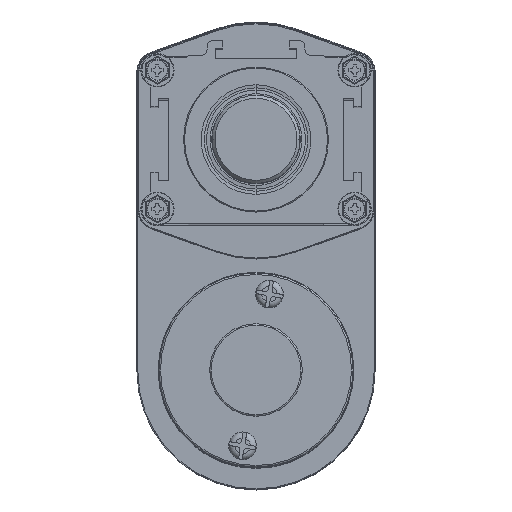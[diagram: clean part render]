
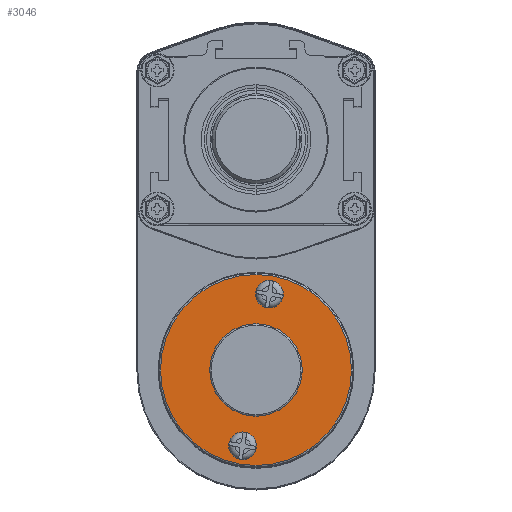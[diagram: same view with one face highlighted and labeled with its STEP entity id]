
A CAD part, top view. The second image highlights one B-rep face of the part: STEP entity #3046.
In plain terms, the highlighted planar face has unit normal (0, 0, 1).
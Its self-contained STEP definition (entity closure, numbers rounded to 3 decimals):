
#648 = DIRECTION ( 'NONE',  ( 0., 0., 1. ) ) ;
#1446 = DIRECTION ( 'NONE',  ( 0., 0., 1. ) ) ;
#2352 = DIRECTION ( 'NONE',  ( 0., 0., 1. ) ) ;
#2400 = CARTESIAN_POINT ( 'NONE',  ( -12.365, -15.675, 284.9 ) ) ;
#3046 = ADVANCED_FACE ( 'NONE', ( #61122, #26044, #66898, #6544 ), #59808, .T. ) ;
#3143 = AXIS2_PLACEMENT_3D ( 'NONE', #36321, #68764, #68330 ) ;
#3448 = CIRCLE ( 'NONE', #64364, 4.5 ) ;
#5583 = ORIENTED_EDGE ( 'NONE', *, *, #69376, .F. ) ;
#6544 = FACE_BOUND ( 'NONE', #49284, .T. ) ;
#8499 = EDGE_CURVE ( 'NONE', #26691, #58603, #3448, .T. ) ;
#8509 = CARTESIAN_POINT ( 'NONE',  ( -22.09, -70.824, 284.9 ) ) ;
#10365 = ORIENTED_EDGE ( 'NONE', *, *, #24735, .F. ) ;
#10815 = DIRECTION ( 'NONE',  ( 0., 0., 1. ) ) ;
#12738 = ORIENTED_EDGE ( 'NONE', *, *, #29710, .F. ) ;
#13062 = CARTESIAN_POINT ( 'NONE',  ( -22.09, -70.824, 284.9 ) ) ;
#14241 = AXIS2_PLACEMENT_3D ( 'NONE', #78716, #10815, #43656 ) ;
#15813 = CARTESIAN_POINT ( 'NONE',  ( -22.871, -75.256, 284.9 ) ) ;
#16369 = ORIENTED_EDGE ( 'NONE', *, *, #64996, .F. ) ;
#22456 = ORIENTED_EDGE ( 'NONE', *, *, #84826, .T. ) ;
#23587 = AXIS2_PLACEMENT_3D ( 'NONE', #27352, #40677, #60681 ) ;
#24172 = CIRCLE ( 'NONE', #14241, 4.5 ) ;
#24730 = ORIENTED_EDGE ( 'NONE', *, *, #76518, .F. ) ;
#24735 = EDGE_CURVE ( 'NONE', #33634, #29066, #53463, .T. ) ;
#25776 = CARTESIAN_POINT ( 'NONE',  ( -20.353, -60.976, 284.9 ) ) ;
#26044 = FACE_BOUND ( 'NONE', #37322, .T. ) ;
#26691 = VERTEX_POINT ( 'NONE', #45014 ) ;
#27352 = CARTESIAN_POINT ( 'NONE',  ( -2.976, -48.809, 284.9 ) ) ;
#27844 = DIRECTION ( 'NONE',  ( -0.174, -0.985, 0. ) ) ;
#27889 = CIRCLE ( 'NONE', #50547, 4.5 ) ;
#29066 = VERTEX_POINT ( 'NONE', #73488 ) ;
#29710 = EDGE_CURVE ( 'NONE', #70319, #50754, #42530, .T. ) ;
#30910 = CARTESIAN_POINT ( 'NONE',  ( -14.189, -26.016, 284.9 ) ) ;
#32218 = CARTESIAN_POINT ( 'NONE',  ( -23.132, -76.733, 284.9 ) ) ;
#33634 = VERTEX_POINT ( 'NONE', #25776 ) ;
#33883 = CARTESIAN_POINT ( 'NONE',  ( -17.749, -46.204, 284.9 ) ) ;
#35063 = AXIS2_PLACEMENT_3D ( 'NONE', #35931, #57673, #77619 ) ;
#35853 = EDGE_LOOP ( 'NONE', ( #77089, #22456 ) ) ;
#35931 = CARTESIAN_POINT ( 'NONE',  ( -17.749, -46.204, 284.9 ) ) ;
#36321 = CARTESIAN_POINT ( 'NONE',  ( -17.749, -46.204, 284.9 ) ) ;
#37322 = EDGE_LOOP ( 'NONE', ( #5583, #12738 ) ) ;
#40677 = DIRECTION ( 'NONE',  ( 0., 0., 1. ) ) ;
#41854 = DIRECTION ( 'NONE',  ( 0., 0., 1. ) ) ;
#42530 = CIRCLE ( 'NONE', #53891, 4.5 ) ;
#43565 = DIRECTION ( 'NONE',  ( -0.174, -0.985, 0. ) ) ;
#43656 = DIRECTION ( 'NONE',  ( -0.174, -0.985, 0. ) ) ;
#45014 = CARTESIAN_POINT ( 'NONE',  ( -21.308, -66.393, 284.9 ) ) ;
#45637 = VERTEX_POINT ( 'NONE', #32218 ) ;
#47069 = CIRCLE ( 'NONE', #3143, 31. ) ;
#48259 = DIRECTION ( 'NONE',  ( 0., 0., 1. ) ) ;
#49132 = AXIS2_PLACEMENT_3D ( 'NONE', #33883, #648, #67196 ) ;
#49284 = EDGE_LOOP ( 'NONE', ( #10365, #16369 ) ) ;
#50547 = AXIS2_PLACEMENT_3D ( 'NONE', #8509, #1446, #62200 ) ;
#50754 = VERTEX_POINT ( 'NONE', #59330 ) ;
#53463 = CIRCLE ( 'NONE', #35063, 15. ) ;
#53891 = AXIS2_PLACEMENT_3D ( 'NONE', #76423, #2352, #43565 ) ;
#54098 = AXIS2_PLACEMENT_3D ( 'NONE', #81990, #48259, #27844 ) ;
#57673 = DIRECTION ( 'NONE',  ( 0., 0., 1. ) ) ;
#58603 = VERTEX_POINT ( 'NONE', #15813 ) ;
#59330 = CARTESIAN_POINT ( 'NONE',  ( -12.626, -17.152, 284.9 ) ) ;
#59808 = PLANE ( 'NONE',  #23587 ) ;
#60681 = DIRECTION ( 'NONE',  ( -0.174, -0.985, 0. ) ) ;
#61122 = FACE_BOUND ( 'NONE', #69027, .T. ) ;
#62200 = DIRECTION ( 'NONE',  ( -0.174, -0.985, 0. ) ) ;
#64364 = AXIS2_PLACEMENT_3D ( 'NONE', #13062, #41854, #67615 ) ;
#64996 = EDGE_CURVE ( 'NONE', #29066, #33634, #78931, .T. ) ;
#66898 = FACE_OUTER_BOUND ( 'NONE', #35853, .T. ) ;
#67196 = DIRECTION ( 'NONE',  ( -0.174, -0.985, 0. ) ) ;
#67615 = DIRECTION ( 'NONE',  ( -0.174, -0.985, 0. ) ) ;
#68330 = DIRECTION ( 'NONE',  ( -0.174, -0.985, 0. ) ) ;
#68764 = DIRECTION ( 'NONE',  ( 0., 0., 1. ) ) ;
#69027 = EDGE_LOOP ( 'NONE', ( #70198, #24730 ) ) ;
#69376 = EDGE_CURVE ( 'NONE', #50754, #70319, #24172, .T. ) ;
#70198 = ORIENTED_EDGE ( 'NONE', *, *, #8499, .F. ) ;
#70217 = EDGE_CURVE ( 'NONE', #45637, #82890, #71059, .T. ) ;
#70319 = VERTEX_POINT ( 'NONE', #30910 ) ;
#71059 = CIRCLE ( 'NONE', #54098, 31. ) ;
#73488 = CARTESIAN_POINT ( 'NONE',  ( -15.144, -31.432, 284.9 ) ) ;
#76423 = CARTESIAN_POINT ( 'NONE',  ( -13.407, -21.584, 284.9 ) ) ;
#76518 = EDGE_CURVE ( 'NONE', #58603, #26691, #27889, .T. ) ;
#77089 = ORIENTED_EDGE ( 'NONE', *, *, #70217, .T. ) ;
#77619 = DIRECTION ( 'NONE',  ( -0.174, -0.985, 0. ) ) ;
#78716 = CARTESIAN_POINT ( 'NONE',  ( -13.407, -21.584, 284.9 ) ) ;
#78931 = CIRCLE ( 'NONE', #49132, 15. ) ;
#81990 = CARTESIAN_POINT ( 'NONE',  ( -17.749, -46.204, 284.9 ) ) ;
#82890 = VERTEX_POINT ( 'NONE', #2400 ) ;
#84826 = EDGE_CURVE ( 'NONE', #82890, #45637, #47069, .T. ) ;
